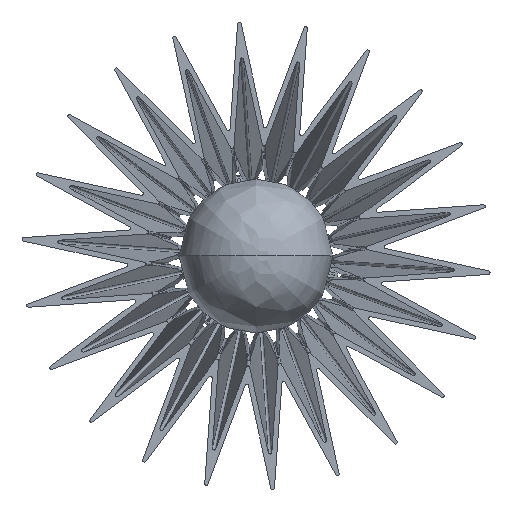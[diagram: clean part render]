
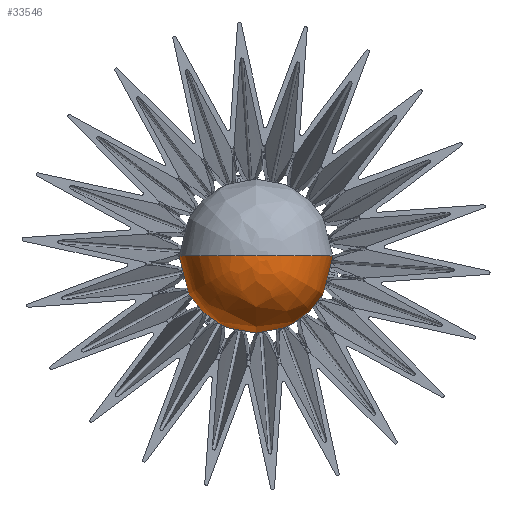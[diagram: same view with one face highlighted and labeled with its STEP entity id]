
A CAD part, top view. The second image highlights one B-rep face of the part: STEP entity #33546.
In plain terms, the highlighted free-form (B-spline) face has degree [3, 3] with [7, 4] control points.
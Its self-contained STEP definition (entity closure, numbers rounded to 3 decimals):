
#31902=CARTESIAN_POINT('',(-116.524,113.785,
27.616));
#31903=DIRECTION('',(0.,0.,1.));
#31904=DIRECTION('',(0.,-1.,0.));
#31905=AXIS2_PLACEMENT_3D('',#31902,#31903,#31904);
#31907=CARTESIAN_POINT('',(-116.524,113.785,
27.616));
#31908=DIRECTION('',(0.,0.,1.));
#31909=DIRECTION('',(-1.,0.,0.));
#31910=AXIS2_PLACEMENT_3D('',#31907,#31908,#31909);
#31912=CARTESIAN_POINT('',(-115.735,113.785,
48.344));
#31913=DIRECTION('',(0.,1.,0.));
#31914=DIRECTION('',(-0.027,0.,1.));
#31915=AXIS2_PLACEMENT_3D('',#31912,#31913,#31914);
#31917=CARTESIAN_POINT('',(-117.312,113.785,
48.344));
#31918=DIRECTION('',(0.,1.,0.));
#31919=DIRECTION('',(-0.705,0.,-0.709));
#31920=AXIS2_PLACEMENT_3D('',#31917,#31918,#31919);
#31939=CARTESIAN_POINT('',(-116.524,113.785,
77.56));
#31940=CARTESIAN_POINT('',(-95.131,113.785,
27.616));
#31941=VERTEX_POINT('',#31939);
#31942=VERTEX_POINT('',#31940);
#31943=CARTESIAN_POINT('',(-137.917,113.785,
27.616));
#31944=VERTEX_POINT('',#31943);
#31945=CARTESIAN_POINT('',(-116.524,92.392,
27.616));
#31946=VERTEX_POINT('',#31945);
#33509=CARTESIAN_POINT('',(-116.524,113.785,
77.56));
#33510=CARTESIAN_POINT('',(-84.212,115.818,
78.434));
#33511=CARTESIAN_POINT('',(-72.198,116.574,
48.368));
#33512=CARTESIAN_POINT('',(-96.183,115.065,
26.657));
#33513=CARTESIAN_POINT('',(-116.524,113.785,
77.56));
#33514=CARTESIAN_POINT('',(-82.961,95.933,
78.434));
#33515=CARTESIAN_POINT('',(-70.482,89.296,
48.368));
#33516=CARTESIAN_POINT('',(-95.396,102.547,
26.657));
#33517=CARTESIAN_POINT('',(-116.524,113.785,
77.56));
#33518=CARTESIAN_POINT('',(-96.6,81.41,
78.434));
#33519=CARTESIAN_POINT('',(-89.192,69.372,
48.368));
#33520=CARTESIAN_POINT('',(-103.981,93.404,
26.657));
#33521=CARTESIAN_POINT('',(-116.524,113.785,
77.56));
#33522=CARTESIAN_POINT('',(-116.524,81.41,
78.434));
#33523=CARTESIAN_POINT('',(-116.524,69.372,
48.368));
#33524=CARTESIAN_POINT('',(-116.524,93.404,
26.657));
#33525=CARTESIAN_POINT('',(-116.524,113.785,
77.56));
#33526=CARTESIAN_POINT('',(-136.447,81.41,
78.434));
#33527=CARTESIAN_POINT('',(-143.855,69.372,
48.368));
#33528=CARTESIAN_POINT('',(-129.066,93.404,
26.657));
#33529=CARTESIAN_POINT('',(-116.524,113.785,
77.56));
#33530=CARTESIAN_POINT('',(-150.086,95.933,
78.434));
#33531=CARTESIAN_POINT('',(-162.565,89.296,
48.368));
#33532=CARTESIAN_POINT('',(-137.652,102.547,
26.657));
#33533=CARTESIAN_POINT('',(-116.524,113.785,
77.56));
#33534=CARTESIAN_POINT('',(-148.835,115.818,
78.434));
#33535=CARTESIAN_POINT('',(-160.849,116.574,
48.368));
#33536=CARTESIAN_POINT('',(-136.864,115.065,
26.657));
#33537=(BOUNDED_SURFACE()B_SPLINE_SURFACE(3,3,((#33509,#33510,#33511,#33512),(
#33513,#33514,#33515,#33516),(#33517,#33518,#33519,#33520),(#33521,#33522,
#33523,#33524),(#33525,#33526,#33527,#33528),(#33529,#33530,#33531,#33532),(
#33533,#33534,#33535,#33536)),.UNSPECIFIED.,.F.,.F.,.F.)B_SPLINE_SURFACE_WITH_KNOTS((4,3,4),(4,4),(0.,1.,2.),(0.,1.),.UNSPECIFIED.)GEOMETRIC_REPRESENTATION_ITEM()RATIONAL_B_SPLINE_SURFACE(((1.763,0.995,
0.995,1.763),(1.393,0.786,
0.786,1.393),(1.393,0.786,
0.786,1.393),(1.763,0.995,
0.995,1.763),(1.393,0.786,
0.786,1.393),(1.393,0.786,
0.786,1.393),(1.763,0.995,
0.995,1.763)))REPRESENTATION_ITEM('')SURFACE());
#33539=ORIENTED_EDGE('',*,*,#33538,.T.);
#33540=ORIENTED_EDGE('',*,*,#32033,.F.);
#33541=ORIENTED_EDGE('',*,*,#32031,.F.);
#33543=ORIENTED_EDGE('',*,*,#33542,.T.);
#33544=EDGE_LOOP('',(#33539,#33540,#33541,#33543));
#33545=FACE_OUTER_BOUND('',#33544,.F.);
#33546=ADVANCED_FACE('',(#33545),#33537,.T.);
#31906=CIRCLE('',#31905,21.393);
#31911=CIRCLE('',#31910,21.393);
#31916=CIRCLE('',#31915,29.227);
#31921=CIRCLE('',#31920,29.227);
#32031=EDGE_CURVE('',#31944,#31946,#31911,.T.);
#32033=EDGE_CURVE('',#31946,#31942,#31906,.T.);
#33538=EDGE_CURVE('',#31941,#31942,#31916,.T.);
#33542=EDGE_CURVE('',#31944,#31941,#31921,.T.);
